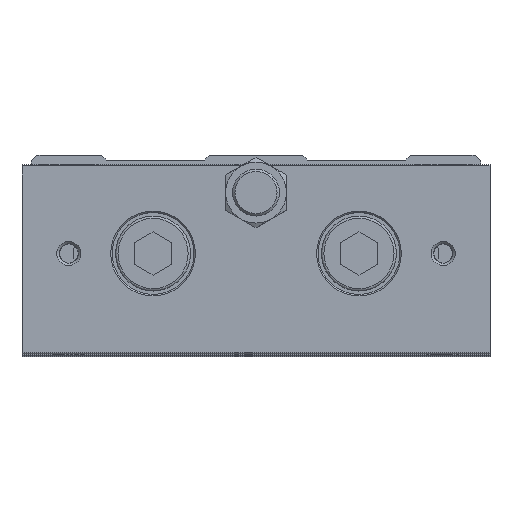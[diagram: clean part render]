
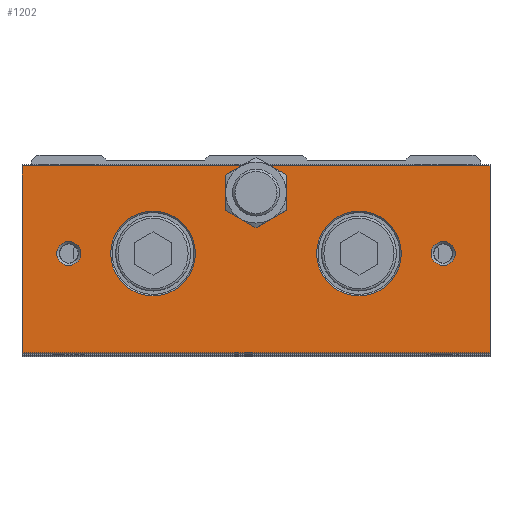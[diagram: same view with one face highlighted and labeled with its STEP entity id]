
A CAD part, top view. The second image highlights one B-rep face of the part: STEP entity #1202.
In plain terms, the highlighted planar face has unit normal (0, 0, 1).
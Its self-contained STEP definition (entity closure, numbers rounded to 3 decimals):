
#1044=CARTESIAN_POINT('',(42.567,-0.75,187.5));
#1045=VERTEX_POINT('',#1044);
#1046=CARTESIAN_POINT('',(40.0,-0.75,187.5));
#1047=DIRECTION('',(0.0,0.0,1.0));
#1048=DIRECTION('',(-1.0,0.0,0.0));
#1049=AXIS2_PLACEMENT_3D('',#1046,#1047,#1048);
#1050=CIRCLE('',#1049,2.567);
#1051=EDGE_CURVE('',#1045,#1045,#1050,.T.);
#1056=CARTESIAN_POINT('',(0.0,-22.25,187.5));
#1057=DIRECTION('',(0.0,0.0,1.0));
#1058=DIRECTION('',(1.0,0.0,0.0));
#1059=AXIS2_PLACEMENT_3D('',#1056,#1057,#1058);
#1060=PLANE('',#1059);
#1061=CARTESIAN_POINT('',(50.0,-21.95,187.5));
#1062=VERTEX_POINT('',#1061);
#1063=CARTESIAN_POINT('',(-50.0,-21.95,187.5));
#1064=VERTEX_POINT('',#1063);
#1065=CARTESIAN_POINT('',(50.0,-21.95,187.5));
#1066=DIRECTION('',(-1.0,0.0,0.0));
#1067=VECTOR('',#1066,100.0);
#1068=LINE('',#1065,#1067);
#1069=EDGE_CURVE('',#1062,#1064,#1068,.T.);
#1070=ORIENTED_EDGE('',*,*,#1069,.F.);
#1071=CARTESIAN_POINT('',(50.0,17.95,187.5));
#1072=VERTEX_POINT('',#1071);
#1073=CARTESIAN_POINT('',(50.0,-21.95,187.5));
#1074=DIRECTION('',(0.0,1.0,0.0));
#1075=VECTOR('',#1074,39.9);
#1076=LINE('',#1073,#1075);
#1077=EDGE_CURVE('',#1062,#1072,#1076,.T.);
#1078=ORIENTED_EDGE('',*,*,#1077,.T.);
#1079=CARTESIAN_POINT('',(3.124,17.95,187.5));
#1080=VERTEX_POINT('',#1079);
#1081=CARTESIAN_POINT('',(3.124,17.95,187.5));
#1082=DIRECTION('',(1.0,0.0,0.0));
#1083=VECTOR('',#1082,46.876);
#1084=LINE('',#1081,#1083);
#1085=EDGE_CURVE('',#1080,#1072,#1084,.T.);
#1086=ORIENTED_EDGE('',*,*,#1085,.F.);
#1087=CARTESIAN_POINT('',(3.25,17.879,187.5));
#1088=VERTEX_POINT('',#1087);
#1089=CARTESIAN_POINT('',(0.0,12.25,187.5));
#1090=DIRECTION('',(0.0,0.0,1.0));
#1091=DIRECTION('',(0.0,1.0,0.0));
#1092=AXIS2_PLACEMENT_3D('',#1089,#1090,#1091);
#1093=CIRCLE('',#1092,6.5);
#1094=EDGE_CURVE('',#1088,#1080,#1093,.T.);
#1095=ORIENTED_EDGE('',*,*,#1094,.F.);
#1096=CARTESIAN_POINT('',(6.5,12.25,187.5));
#1097=VERTEX_POINT('',#1096);
#1098=CARTESIAN_POINT('',(0.0,12.25,187.5));
#1099=DIRECTION('',(0.0,0.0,1.0));
#1100=DIRECTION('',(0.0,1.0,0.0));
#1101=AXIS2_PLACEMENT_3D('',#1098,#1099,#1100);
#1102=CIRCLE('',#1101,6.5);
#1103=EDGE_CURVE('',#1097,#1088,#1102,.T.);
#1104=ORIENTED_EDGE('',*,*,#1103,.F.);
#1105=CARTESIAN_POINT('',(3.25,6.621,187.5));
#1106=VERTEX_POINT('',#1105);
#1107=CARTESIAN_POINT('',(0.0,12.25,187.5));
#1108=DIRECTION('',(0.0,0.0,1.0));
#1109=DIRECTION('',(0.0,1.0,0.0));
#1110=AXIS2_PLACEMENT_3D('',#1107,#1108,#1109);
#1111=CIRCLE('',#1110,6.5);
#1112=EDGE_CURVE('',#1106,#1097,#1111,.T.);
#1113=ORIENTED_EDGE('',*,*,#1112,.F.);
#1114=CARTESIAN_POINT('',(-3.25,6.621,187.5));
#1115=VERTEX_POINT('',#1114);
#1116=CARTESIAN_POINT('',(0.0,12.25,187.5));
#1117=DIRECTION('',(0.0,0.0,1.0));
#1118=DIRECTION('',(0.0,1.0,0.0));
#1119=AXIS2_PLACEMENT_3D('',#1116,#1117,#1118);
#1120=CIRCLE('',#1119,6.5);
#1121=EDGE_CURVE('',#1115,#1106,#1120,.T.);
#1122=ORIENTED_EDGE('',*,*,#1121,.F.);
#1123=CARTESIAN_POINT('',(-6.5,12.25,187.5));
#1124=VERTEX_POINT('',#1123);
#1125=CARTESIAN_POINT('',(0.0,12.25,187.5));
#1126=DIRECTION('',(0.0,0.0,1.0));
#1127=DIRECTION('',(0.0,1.0,0.0));
#1128=AXIS2_PLACEMENT_3D('',#1125,#1126,#1127);
#1129=CIRCLE('',#1128,6.5);
#1130=EDGE_CURVE('',#1124,#1115,#1129,.T.);
#1131=ORIENTED_EDGE('',*,*,#1130,.F.);
#1132=CARTESIAN_POINT('',(-3.25,17.879,187.5));
#1133=VERTEX_POINT('',#1132);
#1134=CARTESIAN_POINT('',(0.0,12.25,187.5));
#1135=DIRECTION('',(0.0,0.0,1.0));
#1136=DIRECTION('',(0.0,1.0,0.0));
#1137=AXIS2_PLACEMENT_3D('',#1134,#1135,#1136);
#1138=CIRCLE('',#1137,6.5);
#1139=EDGE_CURVE('',#1133,#1124,#1138,.T.);
#1140=ORIENTED_EDGE('',*,*,#1139,.F.);
#1141=CARTESIAN_POINT('',(-3.124,17.95,187.5));
#1142=VERTEX_POINT('',#1141);
#1143=CARTESIAN_POINT('',(0.0,12.25,187.5));
#1144=DIRECTION('',(0.0,0.0,1.0));
#1145=DIRECTION('',(0.0,1.0,0.0));
#1146=AXIS2_PLACEMENT_3D('',#1143,#1144,#1145);
#1147=CIRCLE('',#1146,6.5);
#1148=EDGE_CURVE('',#1142,#1133,#1147,.T.);
#1149=ORIENTED_EDGE('',*,*,#1148,.F.);
#1150=CARTESIAN_POINT('',(-50.0,17.95,187.5));
#1151=VERTEX_POINT('',#1150);
#1152=CARTESIAN_POINT('',(-50.0,17.95,187.5));
#1153=DIRECTION('',(1.0,0.0,0.0));
#1154=VECTOR('',#1153,46.876);
#1155=LINE('',#1152,#1154);
#1156=EDGE_CURVE('',#1151,#1142,#1155,.T.);
#1157=ORIENTED_EDGE('',*,*,#1156,.F.);
#1158=CARTESIAN_POINT('',(-50.0,17.95,187.5));
#1159=DIRECTION('',(0.0,-1.0,0.0));
#1160=VECTOR('',#1159,39.9);
#1161=LINE('',#1158,#1160);
#1162=EDGE_CURVE('',#1151,#1064,#1161,.T.);
#1163=ORIENTED_EDGE('',*,*,#1162,.T.);
#1164=EDGE_LOOP('',(#1070,#1078,#1086,#1095,#1104,#1113,#1122,#1131,#1140,#1149,#1157,#1163));
#1165=FACE_OUTER_BOUND('',#1164,.T.);
#1166=CARTESIAN_POINT('',(-37.433,-0.75,187.5));
#1167=VERTEX_POINT('',#1166);
#1168=CARTESIAN_POINT('',(-40.0,-0.75,187.5));
#1169=DIRECTION('',(0.0,0.0,1.0));
#1170=DIRECTION('',(-1.0,0.0,0.0));
#1171=AXIS2_PLACEMENT_3D('',#1168,#1169,#1170);
#1172=CIRCLE('',#1171,2.567);
#1173=EDGE_CURVE('',#1167,#1167,#1172,.T.);
#1174=ORIENTED_EDGE('',*,*,#1173,.F.);
#1175=EDGE_LOOP('',(#1174));
#1176=FACE_BOUND('',#1175,.T.);
#1177=CARTESIAN_POINT('',(-12.95,-0.75,187.5));
#1178=VERTEX_POINT('',#1177);
#1179=CARTESIAN_POINT('',(-22.0,-0.75,187.5));
#1180=DIRECTION('',(0.0,0.0,1.0));
#1181=DIRECTION('',(-1.0,0.0,0.0));
#1182=AXIS2_PLACEMENT_3D('',#1179,#1180,#1181);
#1183=CIRCLE('',#1182,9.05);
#1184=EDGE_CURVE('',#1178,#1178,#1183,.T.);
#1185=ORIENTED_EDGE('',*,*,#1184,.F.);
#1186=EDGE_LOOP('',(#1185));
#1187=FACE_BOUND('',#1186,.T.);
#1188=CARTESIAN_POINT('',(31.05,-0.75,187.5));
#1189=VERTEX_POINT('',#1188);
#1190=CARTESIAN_POINT('',(22.0,-0.75,187.5));
#1191=DIRECTION('',(0.0,0.0,1.0));
#1192=DIRECTION('',(-1.0,0.0,0.0));
#1193=AXIS2_PLACEMENT_3D('',#1190,#1191,#1192);
#1194=CIRCLE('',#1193,9.05);
#1195=EDGE_CURVE('',#1189,#1189,#1194,.T.);
#1196=ORIENTED_EDGE('',*,*,#1195,.F.);
#1197=EDGE_LOOP('',(#1196));
#1198=FACE_BOUND('',#1197,.T.);
#1199=ORIENTED_EDGE('',*,*,#1051,.F.);
#1200=EDGE_LOOP('',(#1199));
#1201=FACE_BOUND('',#1200,.T.);
#1202=ADVANCED_FACE('',(#1165,#1176,#1187,#1198,#1201),#1060,.T.);
